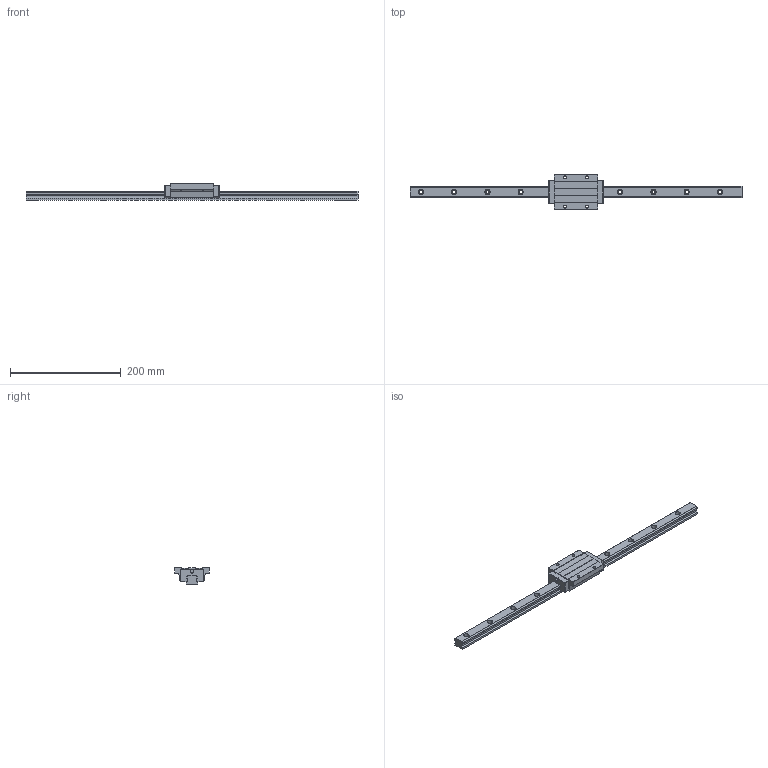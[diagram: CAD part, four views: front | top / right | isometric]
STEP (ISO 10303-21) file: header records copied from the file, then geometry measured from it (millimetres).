
FILE_DESCRIPTION (( 'STEP AP203' ), '1' );
FILE_NAME ('TRH20FE-XNC.STEP', '2024-08-16T05:37:18', ( '' ), ( '' ), 'SwSTEP 2.0', 'SolidWorks 2021', '' );
FILE_SCHEMA (( 'CONFIG_CONTROL_DESIGN' ));
Length unit declared in the file: millimetre
Products named in the file (1): TRH20FE-XNC
Bounding box: 600 x 63 x 30 mm (x, y, z)
Volume: 264496.7 mm3; surface area: 69190.9 mm2
Topology: 1 solids, 1 shells, 187 faces, 530 edges, 346 vertices
Faces by surface type: cylinder 100, plane 83, sphere 4
Entity records: 6533 total; most frequent: CARTESIAN_POINT 1412, DIRECTION 1078, ORIENTED_EDGE 1052, EDGE_CURVE 526, AXIS2_PLACEMENT_3D 382, VERTEX_POINT 346, LINE 314, VECTOR 314
